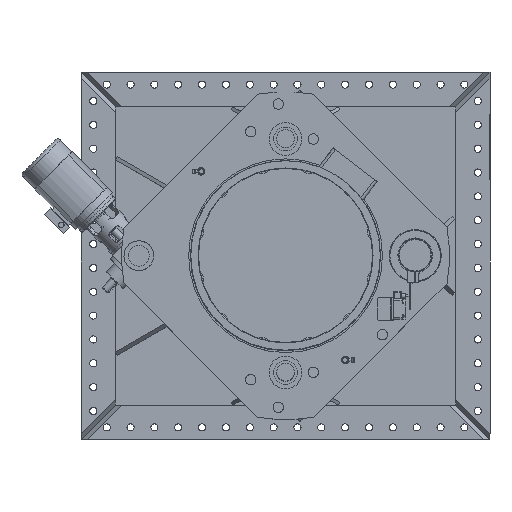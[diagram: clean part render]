
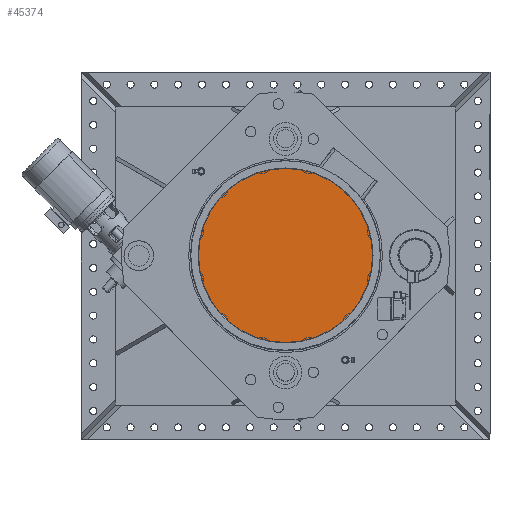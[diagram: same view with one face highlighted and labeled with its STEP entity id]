
A CAD part, top view. The second image highlights one B-rep face of the part: STEP entity #45374.
In plain terms, the highlighted planar face has unit normal (0, 0, 1).
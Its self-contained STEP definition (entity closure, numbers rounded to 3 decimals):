
#7728=PLANE('',#49076);
#9598=FACE_OUTER_BOUND('',#12087,.T.);
#12087=EDGE_LOOP('',(#34029));
#14966=CIRCLE('',#48887,292.1);
#19003=VERTEX_POINT('',#77053);
#24246=EDGE_CURVE('',#19003,#19003,#14966,.T.);
#34029=ORIENTED_EDGE('',*,*,#24246,.F.);
#45374=ADVANCED_FACE('',(#9598),#7728,.T.);
#48887=AXIS2_PLACEMENT_3D('',#77055,#56746,#56747);
#49076=AXIS2_PLACEMENT_3D('',#78116,#57219,#57220);
#56746=DIRECTION('center_axis',(0.,0.,
-1.));
#56747=DIRECTION('ref_axis',(-0.5,0.866,0.));
#57219=DIRECTION('center_axis',(0.,0.,
1.));
#57220=DIRECTION('ref_axis',(0.5,-0.866,0.));
#77053=CARTESIAN_POINT('',(146.05,-252.966,1026.65));
#77055=CARTESIAN_POINT('Origin',(0.,0.,
1026.65));
#78116=CARTESIAN_POINT('Origin',(0.,0.,
1026.65));
